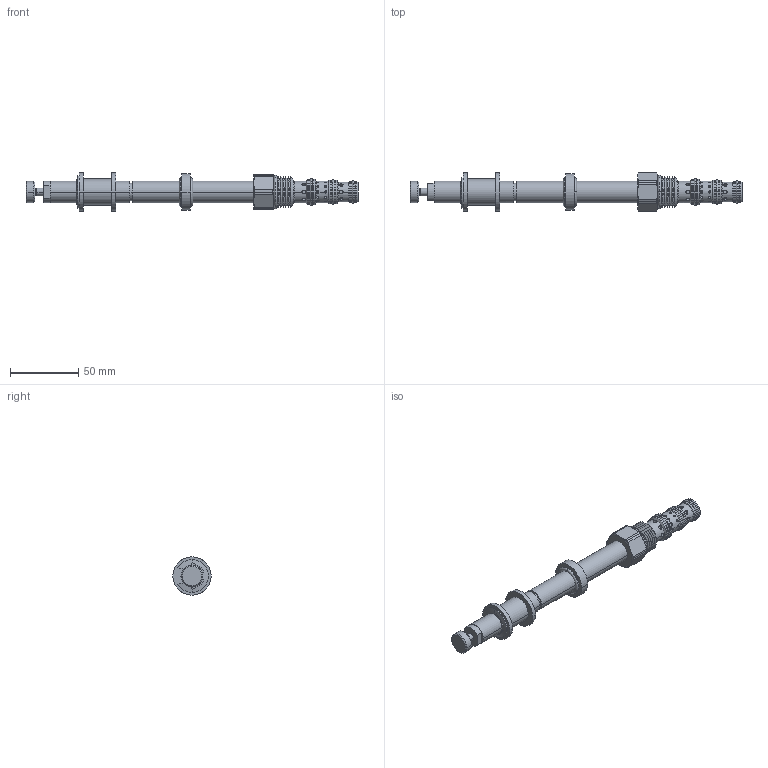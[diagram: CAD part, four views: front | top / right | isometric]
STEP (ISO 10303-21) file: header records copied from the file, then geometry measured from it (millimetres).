
FILE_DESCRIPTION((''),'2;1');
FILE_NAME('U:\Solid model CD\Solid model full\Solenoid\STEP\DGS4P0M-3D Full.stp','2008-06-23T08:41:32',('Dan'),(''),'Autodesk Inventor 9','Autodesk Inventor 9','');
FILE_SCHEMA(('AUTOMOTIVE_DESIGN { 1 0 10303 214 1 1 1 1 }'));
Length unit declared in the file: inch
Products named in the file (19): DGS4P0M-3D Full; DGS4P0M-3D Full1; DGS4P0M-3D Full2; DGS4P0M-3D Full3; DGS4P0M-3D Full4; DGS4P0M-3D Full5; DGS4P0M-3D Full6; DGS4P0M-3D Full7; DGS4P0M-3D Full8; DGS4P0M-3D Full9; DGS4P0M-3D Full10; DGS4P0M-3D Full11; DGS4P0M-3D Full12; DGS4P0M-3D Full13; DGS4P0M-3D Full14; DGS4P0M-3D Full15; DGS4P0M-3D Full16; DGS4P0M-3D Full17; DGS4P0M-3D Full18
Assembly tree (18 placements, depth 2):
  DGS4P0M-3D Full
    DGS4P0M-3D Full1
    DGS4P0M-3D Full2
    DGS4P0M-3D Full3
    DGS4P0M-3D Full4
    DGS4P0M-3D Full5
    DGS4P0M-3D Full6
    DGS4P0M-3D Full7
    DGS4P0M-3D Full8
    DGS4P0M-3D Full9
    DGS4P0M-3D Full10
    DGS4P0M-3D Full11
    DGS4P0M-3D Full12
    DGS4P0M-3D Full13
    DGS4P0M-3D Full14
    DGS4P0M-3D Full15
    DGS4P0M-3D Full16
    DGS4P0M-3D Full17
    DGS4P0M-3D Full18
Bounding box: 242.72 x 27.99 x 27.99 mm (x, y, z)
Volume: 58970.2 mm3; surface area: 27379.4 mm2
Topology: 18 solids, 18 shells, 396 faces, 884 edges, 566 vertices
Faces by surface type: cylinder 198, plane 99, cone 62, torus 24, bspline 10, sphere 3
Entity records: 13160 total; most frequent: CARTESIAN_POINT 3696, DIRECTION 2036, ORIENTED_EDGE 1768, EDGE_CURVE 884, AXIS2_PLACEMENT_3D 881, VERTEX_POINT 566, EDGE_LOOP 470, CIRCLE 458
